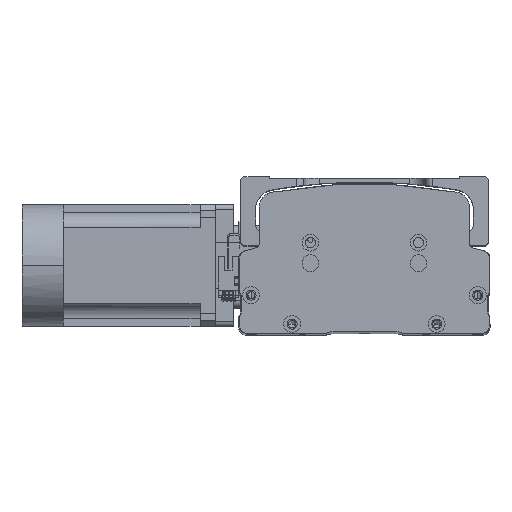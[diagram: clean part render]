
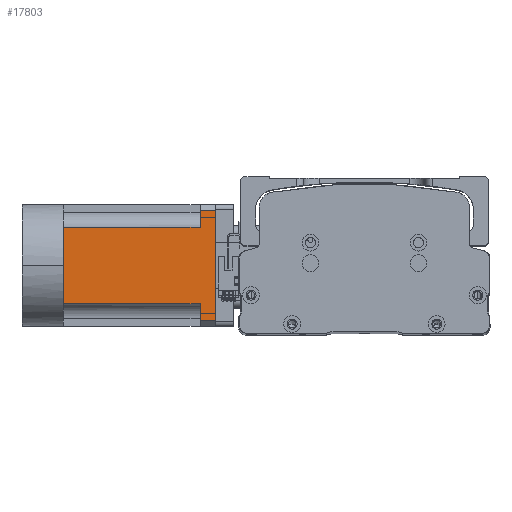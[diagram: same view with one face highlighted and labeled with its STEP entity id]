
A CAD part, top view. The second image highlights one B-rep face of the part: STEP entity #17803.
In plain terms, the highlighted planar face has unit normal (0, -0.003, 1) as drawn and (0, 0, -1) by its records, which use the part's own axes.
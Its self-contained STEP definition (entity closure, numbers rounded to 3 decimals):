
#253 = VERTEX_POINT ( 'NONE', #32744 ) ;
#268 = EDGE_CURVE ( 'NONE', #26961, #39342, #3353, .T. ) ;
#589 = VECTOR ( 'NONE', #24476, 1000. ) ;
#828 = CARTESIAN_POINT ( 'NONE',  ( -25., 0., -40. ) ) ;
#2109 = CARTESIAN_POINT ( 'NONE',  ( -36., 90., -40. ) ) ;
#2932 = CARTESIAN_POINT ( 'NONE',  ( -40., 100., -40. ) ) ;
#3353 = LINE ( 'NONE', #39957, #30915 ) ;
#3433 = EDGE_LOOP ( 'NONE', ( #31023, #32424, #24262, #30138, #26526, #6298, #34793, #36821, #23701 ) ) ;
#4184 = CARTESIAN_POINT ( 'NONE',  ( -25., 90., -40. ) ) ;
#4482 = FACE_OUTER_BOUND ( 'NONE', #3433, .T. ) ;
#6290 = CARTESIAN_POINT ( 'NONE',  ( -25., -27., -40. ) ) ;
#6298 = ORIENTED_EDGE ( 'NONE', *, *, #32672, .T. ) ;
#6369 = CARTESIAN_POINT ( 'NONE',  ( -40., -27., -40. ) ) ;
#8766 = DIRECTION ( 'NONE',  ( -1., 0., 0. ) ) ;
#9320 = CARTESIAN_POINT ( 'NONE',  ( -40., 90., -40. ) ) ;
#12028 = CARTESIAN_POINT ( 'NONE',  ( 25., -27., -40. ) ) ;
#12883 = VECTOR ( 'NONE', #18500, 1000. ) ;
#13548 = EDGE_CURVE ( 'NONE', #20636, #253, #25701, .T. ) ;
#13591 = DIRECTION ( 'NONE',  ( 0., 0., -1. ) ) ;
#15512 = LINE ( 'NONE', #6290, #22831 ) ;
#15655 = DIRECTION ( 'NONE',  ( 0., -1., 0. ) ) ;
#16421 = LINE ( 'NONE', #18082, #26027 ) ;
#16533 = EDGE_CURVE ( 'NONE', #19332, #20636, #30471, .T. ) ;
#17491 = CARTESIAN_POINT ( 'NONE',  ( 25., 90., -40. ) ) ;
#17803 = ADVANCED_FACE ( 'NONE', ( #4482 ), #35153, .T. ) ;
#17899 = AXIS2_PLACEMENT_3D ( 'NONE', #6369, #13591, #38757 ) ;
#18082 = CARTESIAN_POINT ( 'NONE',  ( 36., -27., -40. ) ) ;
#18112 = CARTESIAN_POINT ( 'NONE',  ( 36., 100., -40. ) ) ;
#18286 = VERTEX_POINT ( 'NONE', #18112 ) ;
#18434 = DIRECTION ( 'NONE',  ( -1., 0., 0. ) ) ;
#18500 = DIRECTION ( 'NONE',  ( -1., 0., 0. ) ) ;
#19332 = VERTEX_POINT ( 'NONE', #4184 ) ;
#19763 = VECTOR ( 'NONE', #37942, 1000. ) ;
#20614 = DIRECTION ( 'NONE',  ( 0., 1., 0. ) ) ;
#20636 = VERTEX_POINT ( 'NONE', #2109 ) ;
#21414 = CARTESIAN_POINT ( 'NONE',  ( 0., 0., -40. ) ) ;
#22403 = VERTEX_POINT ( 'NONE', #828 ) ;
#22831 = VECTOR ( 'NONE', #20614, 1000. ) ;
#23701 = ORIENTED_EDGE ( 'NONE', *, *, #13548, .T. ) ;
#24262 = ORIENTED_EDGE ( 'NONE', *, *, #268, .T. ) ;
#24476 = DIRECTION ( 'NONE',  ( -1., 0., 0. ) ) ;
#24580 = VECTOR ( 'NONE', #39765, 1000. ) ;
#24631 = EDGE_CURVE ( 'NONE', #22403, #19332, #15512, .T. ) ;
#25641 = VECTOR ( 'NONE', #8766, 1000. ) ;
#25701 = LINE ( 'NONE', #32387, #24580 ) ;
#26027 = VECTOR ( 'NONE', #39619, 1000. ) ;
#26526 = ORIENTED_EDGE ( 'NONE', *, *, #40080, .T. ) ;
#26961 = VERTEX_POINT ( 'NONE', #39692 ) ;
#29266 = LINE ( 'NONE', #2932, #589 ) ;
#30138 = ORIENTED_EDGE ( 'NONE', *, *, #41220, .T. ) ;
#30471 = LINE ( 'NONE', #9320, #19763 ) ;
#30656 = LINE ( 'NONE', #12028, #37934 ) ;
#30915 = VECTOR ( 'NONE', #18434, 1000. ) ;
#31023 = ORIENTED_EDGE ( 'NONE', *, *, #43121, .F. ) ;
#32387 = CARTESIAN_POINT ( 'NONE',  ( -36., -27., -40. ) ) ;
#32424 = ORIENTED_EDGE ( 'NONE', *, *, #42265, .T. ) ;
#32672 = EDGE_CURVE ( 'NONE', #44778, #22403, #41544, .T. ) ;
#32744 = CARTESIAN_POINT ( 'NONE',  ( -36., 100., -40. ) ) ;
#33719 = CARTESIAN_POINT ( 'NONE',  ( 25., 0., -40. ) ) ;
#33963 = CARTESIAN_POINT ( 'NONE',  ( -40., 0., -40. ) ) ;
#34793 = ORIENTED_EDGE ( 'NONE', *, *, #24631, .T. ) ;
#35153 = PLANE ( 'NONE',  #17899 ) ;
#36821 = ORIENTED_EDGE ( 'NONE', *, *, #16533, .T. ) ;
#37934 = VECTOR ( 'NONE', #15655, 1000. ) ;
#37942 = DIRECTION ( 'NONE',  ( -1., 0., 0. ) ) ;
#38757 = DIRECTION ( 'NONE',  ( -1., 0., 0. ) ) ;
#39342 = VERTEX_POINT ( 'NONE', #17491 ) ;
#39619 = DIRECTION ( 'NONE',  ( 0., -1., 0. ) ) ;
#39692 = CARTESIAN_POINT ( 'NONE',  ( 36., 90., -40. ) ) ;
#39765 = DIRECTION ( 'NONE',  ( 0., 1., 0. ) ) ;
#39957 = CARTESIAN_POINT ( 'NONE',  ( -40., 90., -40. ) ) ;
#40080 = EDGE_CURVE ( 'NONE', #44484, #44778, #44744, .T. ) ;
#41220 = EDGE_CURVE ( 'NONE', #39342, #44484, #30656, .T. ) ;
#41544 = LINE ( 'NONE', #43796, #12883 ) ;
#42265 = EDGE_CURVE ( 'NONE', #18286, #26961, #16421, .T. ) ;
#43121 = EDGE_CURVE ( 'NONE', #18286, #253, #29266, .T. ) ;
#43796 = CARTESIAN_POINT ( 'NONE',  ( -40., 0., -40. ) ) ;
#44484 = VERTEX_POINT ( 'NONE', #33719 ) ;
#44744 = LINE ( 'NONE', #33963, #25641 ) ;
#44778 = VERTEX_POINT ( 'NONE', #21414 ) ;
